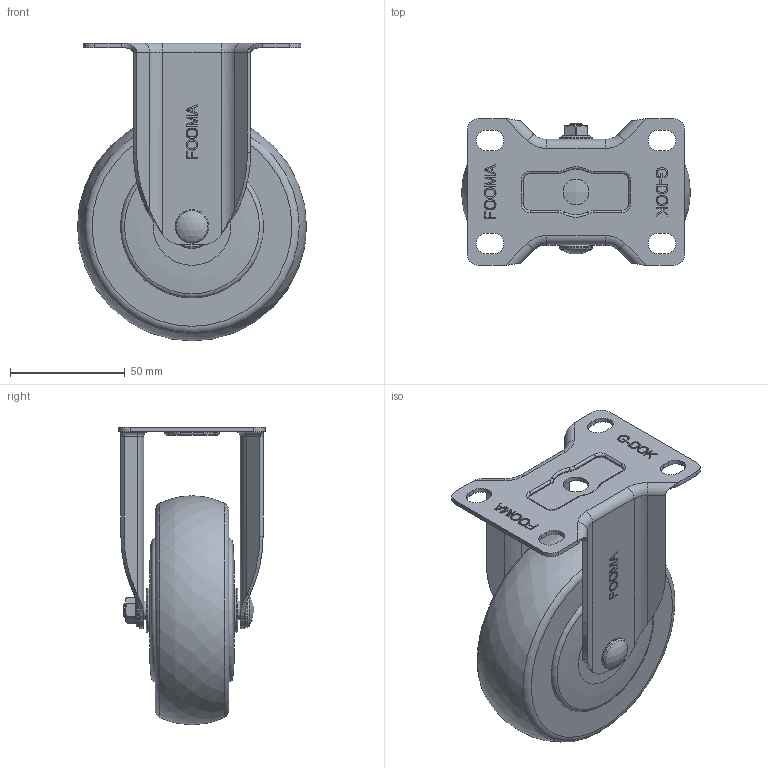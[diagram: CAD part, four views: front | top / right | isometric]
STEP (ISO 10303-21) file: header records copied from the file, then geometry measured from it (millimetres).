
FILE_DESCRIPTION((''),'2;1');
FILE_NAME('E:\GL-RF(NEW)\GL-100 RF\GL-100-ARF.stp','2013-06-25T16:25:38',('Administrator'),(''),'Autodesk Inventor 2012','Autodesk Inventor 2012','');
FILE_SCHEMA(('AUTOMOTIVE_DESIGN { 1 0 10303 214 1 1 1 1 }'));
Length unit declared in the file: millimetre
Products named in the file (1): GL-100-ARF
Bounding box: 100 x 64 x 130 mm (x, y, z)
Volume: 279668.8 mm3; surface area: 52553.4 mm2
Topology: 1 solids, 1 shells, 1453 faces, 4135 edges, 2725 vertices
Faces by surface type: plane 1302, cylinder 84, torus 40, bspline 23, cone 3, sphere 1
Full cylindrical faces by diameter (mm): 6 x1, 8 x2, 11.2 x1, 14 x1, 14.6 x1, 19 x2
Entity records: 46654 total; most frequent: CARTESIAN_POINT 8846, ORIENTED_EDGE 8210, DIRECTION 7170, EDGE_CURVE 4105, VECTOR 3842, LINE 3842, VERTEX_POINT 2721, AXIS2_PLACEMENT_3D 1664
